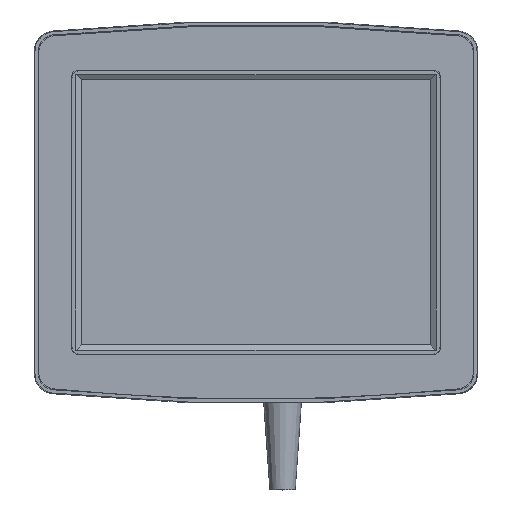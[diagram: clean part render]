
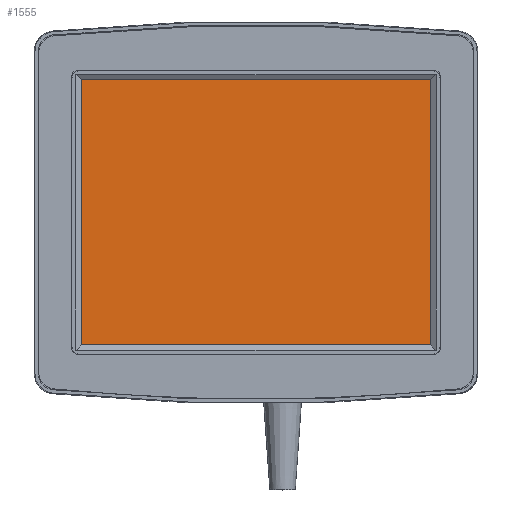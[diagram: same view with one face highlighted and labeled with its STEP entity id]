
A CAD part, top view. The second image highlights one B-rep face of the part: STEP entity #1555.
In plain terms, the highlighted planar face has unit normal (0, 0, 1).
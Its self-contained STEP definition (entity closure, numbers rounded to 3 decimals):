
#1555 = ADVANCED_FACE ( 'NONE', ( #27671 ), #26417, .F. ) ;
#3357 = VERTEX_POINT ( 'NONE', #26226 ) ;
#3865 = CARTESIAN_POINT ( 'NONE',  ( 0., 0., 2.1 ) ) ;
#4620 = VECTOR ( 'NONE', #12799, 1000. ) ;
#4711 = VECTOR ( 'NONE', #26117, 1000. ) ;
#5033 = CARTESIAN_POINT ( 'NONE',  ( 0., 146., 2.1 ) ) ;
#5104 = VERTEX_POINT ( 'NONE', #3865 ) ;
#5434 = DIRECTION ( 'NONE',  ( 1., 0., 0. ) ) ;
#5436 = LINE ( 'NONE', #21559, #4711 ) ;
#5609 = EDGE_CURVE ( 'NONE', #25910, #3357, #9934, .T. ) ;
#6327 = ORIENTED_EDGE ( 'NONE', *, *, #21683, .T. ) ;
#6925 = VECTOR ( 'NONE', #5434, 1000. ) ;
#7531 = AXIS2_PLACEMENT_3D ( 'NONE', #21869, #12929, #28692 ) ;
#7713 = CARTESIAN_POINT ( 'NONE',  ( 0., 0., 2.1 ) ) ;
#9934 = LINE ( 'NONE', #24031, #4620 ) ;
#10980 = LINE ( 'NONE', #15003, #28261 ) ;
#12799 = DIRECTION ( 'NONE',  ( 0., 1., 0. ) ) ;
#12929 = DIRECTION ( 'NONE',  ( 0., 0., -1. ) ) ;
#13921 = ORIENTED_EDGE ( 'NONE', *, *, #15787, .T. ) ;
#15003 = CARTESIAN_POINT ( 'NONE',  ( 0., 0., 2.1 ) ) ;
#15787 = EDGE_CURVE ( 'NONE', #25200, #5104, #10980, .T. ) ;
#16735 = CARTESIAN_POINT ( 'NONE',  ( 194., 0., 2.1 ) ) ;
#17079 = DIRECTION ( 'NONE',  ( 0., -1., 0. ) ) ;
#19923 = EDGE_CURVE ( 'NONE', #5104, #25910, #24888, .T. ) ;
#21559 = CARTESIAN_POINT ( 'NONE',  ( 0., 146., 2.1 ) ) ;
#21683 = EDGE_CURVE ( 'NONE', #3357, #25200, #5436, .T. ) ;
#21869 = CARTESIAN_POINT ( 'NONE',  ( 0., 146., 2.1 ) ) ;
#24031 = CARTESIAN_POINT ( 'NONE',  ( 194., 0., 2.1 ) ) ;
#24649 = ORIENTED_EDGE ( 'NONE', *, *, #19923, .T. ) ;
#24813 = EDGE_LOOP ( 'NONE', ( #13921, #24649, #27587, #6327 ) ) ;
#24888 = LINE ( 'NONE', #7713, #6925 ) ;
#25200 = VERTEX_POINT ( 'NONE', #5033 ) ;
#25910 = VERTEX_POINT ( 'NONE', #16735 ) ;
#26117 = DIRECTION ( 'NONE',  ( -1., 0., 0. ) ) ;
#26226 = CARTESIAN_POINT ( 'NONE',  ( 194., 146., 2.1 ) ) ;
#26417 = PLANE ( 'NONE',  #7531 ) ;
#27587 = ORIENTED_EDGE ( 'NONE', *, *, #5609, .T. ) ;
#27671 = FACE_OUTER_BOUND ( 'NONE', #24813, .T. ) ;
#28261 = VECTOR ( 'NONE', #17079, 1000. ) ;
#28692 = DIRECTION ( 'NONE',  ( -1., 0., 0. ) ) ;
